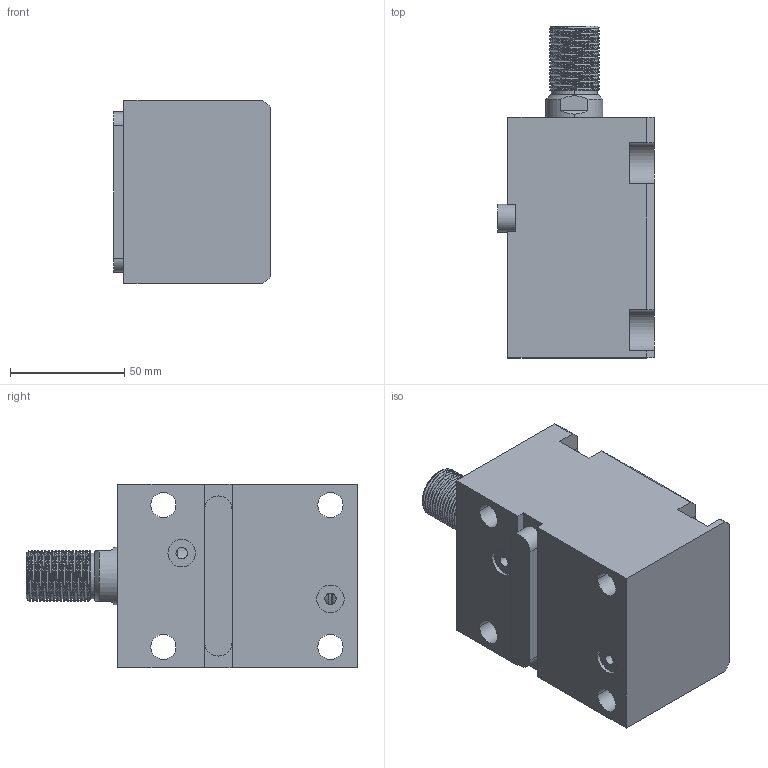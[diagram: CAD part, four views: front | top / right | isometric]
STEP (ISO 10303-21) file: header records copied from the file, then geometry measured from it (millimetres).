
FILE_DESCRIPTION (( 'STEP AP214' ), '1' );
FILE_NAME ('chtb-lam40x50w_asm.STEP', '2018-05-30T06:48:36', ( 'Windows' ), ( 'Microsoft' ), 'SwSTEP 2.0', 'SolidWorks 2015', '' );
FILE_SCHEMA (( 'AUTOMOTIVE_DESIGN' ));
Length unit declared in the file: millimetre
Products named in the file (5): CHTB-SD40X50WHSG; CHTB-SD40QG; CHTB-LAM40X50NBT; CHTB-LA40PJ; chtb-lam40x50w_asm
Assembly tree (4 placements, depth 2):
  chtb-lam40x50w_asm
    CHTB-LA40PJ
    CHTB-LAM40X50NBT
    CHTB-SD40QG
    CHTB-SD40X50WHSG
Bounding box: 68.5 x 145 x 80 mm (x, y, z)
Volume: 479900.6 mm3; surface area: 90983.8 mm2
Topology: 4 solids, 5 shells, 199 faces, 547 edges, 365 vertices
Faces by surface type: cylinder 111, plane 50, bspline 16, torus 12, cone 10
Entity records: 13609 total; most frequent: CARTESIAN_POINT 8674, ORIENTED_EDGE 1082, DIRECTION 894, EDGE_CURVE 541, VERTEX_POINT 365, AXIS2_PLACEMENT_3D 349, EDGE_LOOP 226, ADVANCED_FACE 199
